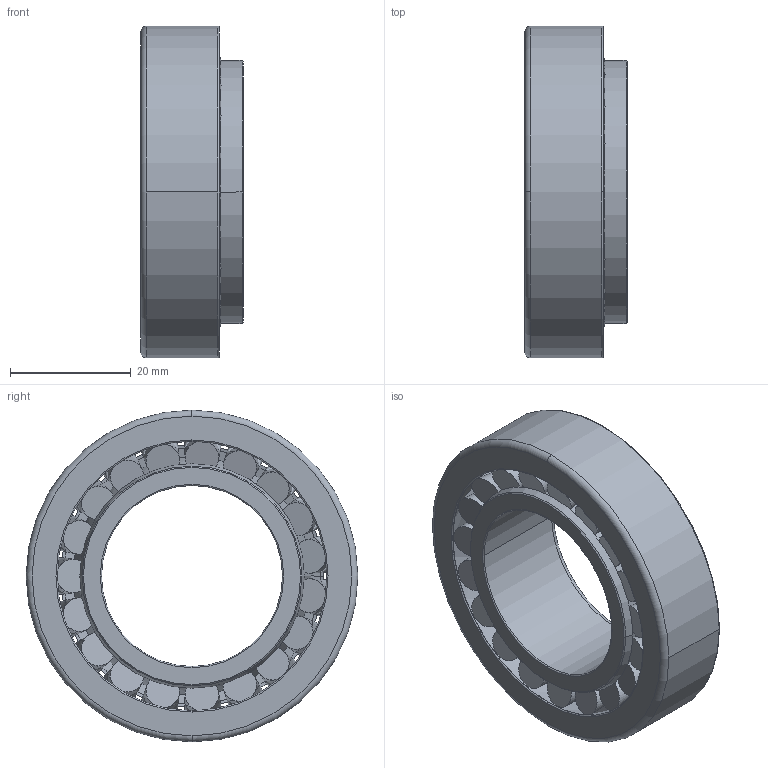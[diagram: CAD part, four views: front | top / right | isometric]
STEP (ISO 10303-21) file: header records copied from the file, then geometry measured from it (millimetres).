
FILE_DESCRIPTION(('STEP AP203'),'1');
FILE_NAME('skf_bearing_32006_x_2.stp','2024-11-12T15:08:02',('TraceParts'),('TraceParts S.A.'),'Spatial InterOp 3D',' ',' ');
FILE_SCHEMA(('CONFIG_CONTROL_DESIGN'));
Length unit declared in the file: millimetre
Products named in the file (1): 1
Bounding box: 17 x 55 x 55 mm (x, y, z)
Volume: 20801 mm3; surface area: 15808.4 mm2
Topology: 3 solids, 3 shells, 150 faces, 315 edges, 207 vertices
Faces by surface type: cone 52, torus 50, plane 42, cylinder 6
Entity records: 5444 total; most frequent: CARTESIAN_POINT 2119, DIRECTION 726, ORIENTED_EDGE 630, AXIS2_PLACEMENT_3D 334, EDGE_CURVE 315, VERTEX_POINT 207, EDGE_LOOP 192, CIRCLE 181
